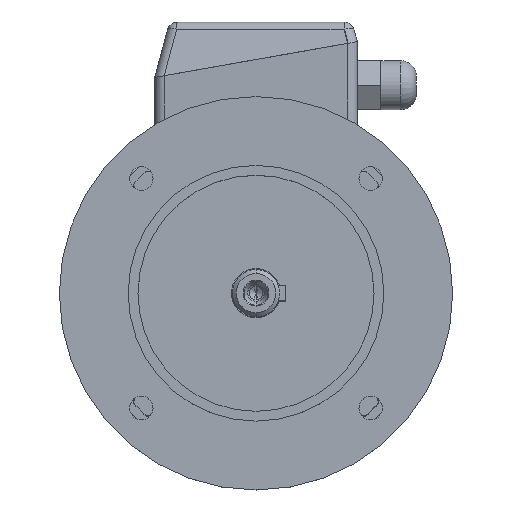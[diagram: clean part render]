
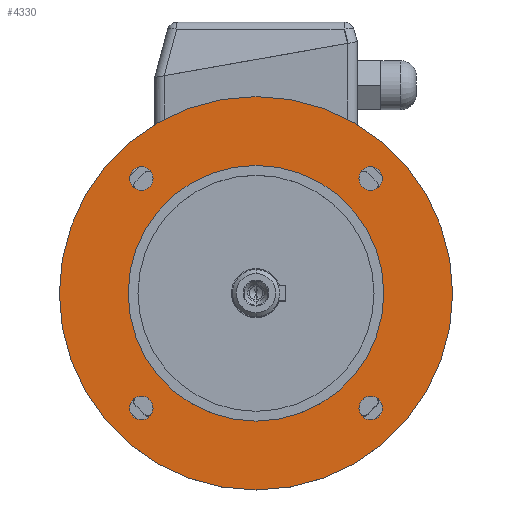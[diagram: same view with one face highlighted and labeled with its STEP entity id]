
A CAD part, top view. The second image highlights one B-rep face of the part: STEP entity #4330.
In plain terms, the highlighted planar face has unit normal (0, 0, 1).
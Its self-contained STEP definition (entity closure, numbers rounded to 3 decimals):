
#13 = CARTESIAN_POINT ( 'NONE',  ( -52.336, 58.336, 40. ) ) ;
#14 = FACE_BOUND ( 'NONE', #4070, .T. ) ;
#15 = FACE_BOUND ( 'NONE', #8293, .T. ) ;
#16 = FACE_BOUND ( 'NONE', #7906, .T. ) ;
#17 = FACE_BOUND ( 'NONE', #7527, .T. ) ;
#18 = FACE_BOUND ( 'NONE', #9321, .T. ) ;
#19 = FACE_OUTER_BOUND ( 'NONE', #8939, .T. ) ;
#22 = PLANE ( 'NONE',  #23 ) ;
#23 = AXIS2_PLACEMENT_3D ( 'NONE', #24, #25, #26 ) ;
#24 = CARTESIAN_POINT ( 'NONE',  ( 0., 100., 40. ) ) ;
#25 = DIRECTION ( 'NONE',  ( 0., 0., 1. ) ) ;
#26 = DIRECTION ( 'NONE',  ( 0., -1., 0. ) ) ;
#109 = CIRCLE ( 'NONE', #110, 6. ) ;
#110 = AXIS2_PLACEMENT_3D ( 'NONE', #111, #112, #113 ) ;
#111 = CARTESIAN_POINT ( 'NONE',  ( -58.336, 58.336, 40. ) ) ;
#112 = DIRECTION ( 'NONE',  ( 0., 0., 1. ) ) ;
#113 = DIRECTION ( 'NONE',  ( 1., 0., 0. ) ) ;
#347 = CARTESIAN_POINT ( 'NONE',  ( 0., -65., 40. ) ) ;
#510 = CARTESIAN_POINT ( 'NONE',  ( -64.336, 58.336, 40. ) ) ;
#643 = CIRCLE ( 'NONE', #644, 100. ) ;
#644 = AXIS2_PLACEMENT_3D ( 'NONE', #649, #650, #651 ) ;
#649 = CARTESIAN_POINT ( 'NONE',  ( 0., 0., 40. ) ) ;
#650 = DIRECTION ( 'NONE',  ( 0., 0., -1. ) ) ;
#651 = DIRECTION ( 'NONE',  ( 0., 1., 0. ) ) ;
#1854 = CIRCLE ( 'NONE', #1855, 6. ) ;
#1855 = AXIS2_PLACEMENT_3D ( 'NONE', #1856, #1857, #1860 ) ;
#1856 = CARTESIAN_POINT ( 'NONE',  ( 58.336, 58.336, 40. ) ) ;
#1857 = DIRECTION ( 'NONE',  ( 0., 0., 1. ) ) ;
#1860 = DIRECTION ( 'NONE',  ( 1., 0., 0. ) ) ;
#2971 = CARTESIAN_POINT ( 'NONE',  ( -52.336, -58.336, 40. ) ) ;
#3176 = CIRCLE ( 'NONE', #3177, 6. ) ;
#3177 = AXIS2_PLACEMENT_3D ( 'NONE', #3178, #3179, #3180 ) ;
#3178 = CARTESIAN_POINT ( 'NONE',  ( -58.336, -58.336, 40. ) ) ;
#3179 = DIRECTION ( 'NONE',  ( 0., 0., 1. ) ) ;
#3180 = DIRECTION ( 'NONE',  ( 1., 0., 0. ) ) ;
#3457 = CIRCLE ( 'NONE', #3458, 6. ) ;
#3458 = AXIS2_PLACEMENT_3D ( 'NONE', #3459, #3460, #3461 ) ;
#3459 = CARTESIAN_POINT ( 'NONE',  ( 58.336, -58.336, 40. ) ) ;
#3460 = DIRECTION ( 'NONE',  ( 0., 0., 1. ) ) ;
#3461 = DIRECTION ( 'NONE',  ( 1., 0., 0. ) ) ;
#3684 = ORIENTED_EDGE ( 'NONE', *, *, #8465, .F. ) ;
#3893 = VERTEX_POINT ( 'NONE', #11403 ) ;
#4006 = CARTESIAN_POINT ( 'NONE',  ( -64.336, -58.336, 40. ) ) ;
#4032 = CARTESIAN_POINT ( 'NONE',  ( 64.336, -58.336, 40. ) ) ;
#4070 = EDGE_LOOP ( 'NONE', ( #3684, #8356 ) ) ;
#4125 = EDGE_CURVE ( 'NONE', #3893, #5098, #11485, .T. ) ;
#4313 = VERTEX_POINT ( 'NONE', #13 ) ;
#4330 = ADVANCED_FACE ( 'NONE', ( #14, #15, #16, #17, #18, #19 ), #22, .T. ) ;
#4355 = CARTESIAN_POINT ( 'NONE',  ( 0., -100., 40. ) ) ;
#4441 = CARTESIAN_POINT ( 'NONE',  ( 0., 100., 40. ) ) ;
#4484 = CIRCLE ( 'NONE', #4485, 6. ) ;
#4485 = AXIS2_PLACEMENT_3D ( 'NONE', #4497, #4498, #4499 ) ;
#4497 = CARTESIAN_POINT ( 'NONE',  ( -58.336, -58.336, 40. ) ) ;
#4498 = DIRECTION ( 'NONE',  ( 0., 0., 1. ) ) ;
#4499 = DIRECTION ( 'NONE',  ( 1., 0., 0. ) ) ;
#4553 = EDGE_CURVE ( 'NONE', #5524, #4313, #109, .T. ) ;
#4577 = CIRCLE ( 'NONE', #4578, 100. ) ;
#4578 = AXIS2_PLACEMENT_3D ( 'NONE', #4579, #4580, #4581 ) ;
#4579 = CARTESIAN_POINT ( 'NONE',  ( 0., 0., 40. ) ) ;
#4580 = DIRECTION ( 'NONE',  ( 0., 0., -1. ) ) ;
#4581 = DIRECTION ( 'NONE',  ( 0., 1., 0. ) ) ;
#5098 = VERTEX_POINT ( 'NONE', #347 ) ;
#5278 = CIRCLE ( 'NONE', #5279, 6. ) ;
#5279 = AXIS2_PLACEMENT_3D ( 'NONE', #5280, #5281, #5282 ) ;
#5280 = CARTESIAN_POINT ( 'NONE',  ( -58.336, 58.336, 40. ) ) ;
#5281 = DIRECTION ( 'NONE',  ( 0., 0., 1. ) ) ;
#5282 = DIRECTION ( 'NONE',  ( 1., 0., 0. ) ) ;
#5524 = VERTEX_POINT ( 'NONE', #510 ) ;
#5588 = CIRCLE ( 'NONE', #5589, 6. ) ;
#5589 = AXIS2_PLACEMENT_3D ( 'NONE', #5590, #5591, #5592 ) ;
#5590 = CARTESIAN_POINT ( 'NONE',  ( 58.336, -58.336, 40. ) ) ;
#5591 = DIRECTION ( 'NONE',  ( 0., 0., 1. ) ) ;
#5592 = DIRECTION ( 'NONE',  ( 1., 0., 0. ) ) ;
#5875 = EDGE_CURVE ( 'NONE', #8013, #8068, #643, .T. ) ;
#6004 = CARTESIAN_POINT ( 'NONE',  ( 64.336, 58.336, 40. ) ) ;
#6032 = CARTESIAN_POINT ( 'NONE',  ( 52.336, -58.336, 40. ) ) ;
#6069 = CIRCLE ( 'NONE', #6070, 6. ) ;
#6070 = AXIS2_PLACEMENT_3D ( 'NONE', #6071, #6072, #6073 ) ;
#6071 = CARTESIAN_POINT ( 'NONE',  ( 58.336, 58.336, 40. ) ) ;
#6072 = DIRECTION ( 'NONE',  ( 0., 0., 1. ) ) ;
#6073 = DIRECTION ( 'NONE',  ( 1., 0., 0. ) ) ;
#6377 = CIRCLE ( 'NONE', #6378, 65. ) ;
#6378 = AXIS2_PLACEMENT_3D ( 'NONE', #6379, #6380, #6381 ) ;
#6379 = CARTESIAN_POINT ( 'NONE',  ( 0., 0., 40. ) ) ;
#6380 = DIRECTION ( 'NONE',  ( 0., 0., -1. ) ) ;
#6381 = DIRECTION ( 'NONE',  ( 0., 1., 0. ) ) ;
#6603 = CARTESIAN_POINT ( 'NONE',  ( 52.336, 58.336, 40. ) ) ;
#7527 = EDGE_LOOP ( 'NONE', ( #9577, #9386 ) ) ;
#7595 = ORIENTED_EDGE ( 'NONE', *, *, #8615, .F. ) ;
#7601 = VERTEX_POINT ( 'NONE', #2971 ) ;
#7647 = EDGE_CURVE ( 'NONE', #7849, #7601, #3176, .T. ) ;
#7711 = EDGE_CURVE ( 'NONE', #7864, #8845, #3457, .T. ) ;
#7793 = ORIENTED_EDGE ( 'NONE', *, *, #7711, .F. ) ;
#7849 = VERTEX_POINT ( 'NONE', #4006 ) ;
#7864 = VERTEX_POINT ( 'NONE', #4032 ) ;
#7906 = EDGE_LOOP ( 'NONE', ( #7793, #7595 ) ) ;
#7962 = ORIENTED_EDGE ( 'NONE', *, *, #7647, .F. ) ;
#8013 = VERTEX_POINT ( 'NONE', #4355 ) ;
#8068 = VERTEX_POINT ( 'NONE', #4441 ) ;
#8088 = EDGE_CURVE ( 'NONE', #7601, #7849, #4484, .T. ) ;
#8120 = EDGE_CURVE ( 'NONE', #8068, #8013, #4577, .T. ) ;
#8175 = ORIENTED_EDGE ( 'NONE', *, *, #8088, .F. ) ;
#8293 = EDGE_LOOP ( 'NONE', ( #8175, #7962 ) ) ;
#8356 = ORIENTED_EDGE ( 'NONE', *, *, #4553, .F. ) ;
#8465 = EDGE_CURVE ( 'NONE', #4313, #5524, #5278, .T. ) ;
#8615 = EDGE_CURVE ( 'NONE', #8845, #7864, #5588, .T. ) ;
#8675 = ORIENTED_EDGE ( 'NONE', *, *, #5875, .F. ) ;
#8790 = ORIENTED_EDGE ( 'NONE', *, *, #8120, .F. ) ;
#8833 = VERTEX_POINT ( 'NONE', #6004 ) ;
#8845 = VERTEX_POINT ( 'NONE', #6032 ) ;
#8867 = EDGE_CURVE ( 'NONE', #9124, #8833, #6069, .T. ) ;
#8939 = EDGE_LOOP ( 'NONE', ( #8790, #8675 ) ) ;
#8997 = EDGE_CURVE ( 'NONE', #5098, #3893, #6377, .T. ) ;
#9085 = ORIENTED_EDGE ( 'NONE', *, *, #8997, .T. ) ;
#9124 = VERTEX_POINT ( 'NONE', #6603 ) ;
#9200 = ORIENTED_EDGE ( 'NONE', *, *, #4125, .T. ) ;
#9321 = EDGE_LOOP ( 'NONE', ( #9200, #9085 ) ) ;
#9386 = ORIENTED_EDGE ( 'NONE', *, *, #8867, .F. ) ;
#9493 = EDGE_CURVE ( 'NONE', #8833, #9124, #1854, .T. ) ;
#9577 = ORIENTED_EDGE ( 'NONE', *, *, #9493, .F. ) ;
#11403 = CARTESIAN_POINT ( 'NONE',  ( 0., 65., 40. ) ) ;
#11485 = CIRCLE ( 'NONE', #11486, 65. ) ;
#11486 = AXIS2_PLACEMENT_3D ( 'NONE', #11487, #11488, #11489 ) ;
#11487 = CARTESIAN_POINT ( 'NONE',  ( 0., 0., 40. ) ) ;
#11488 = DIRECTION ( 'NONE',  ( 0., 0., -1. ) ) ;
#11489 = DIRECTION ( 'NONE',  ( 0., 1., 0. ) ) ;
